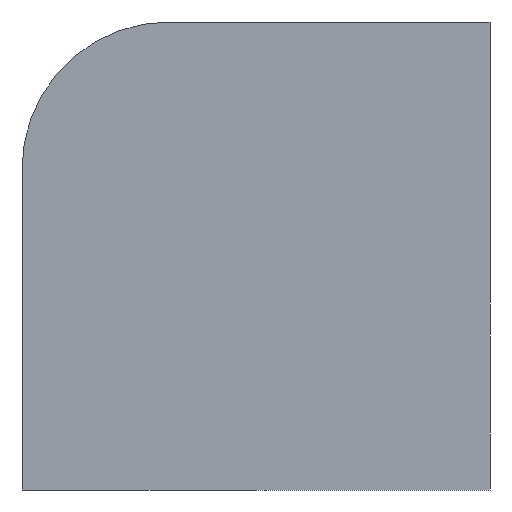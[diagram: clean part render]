
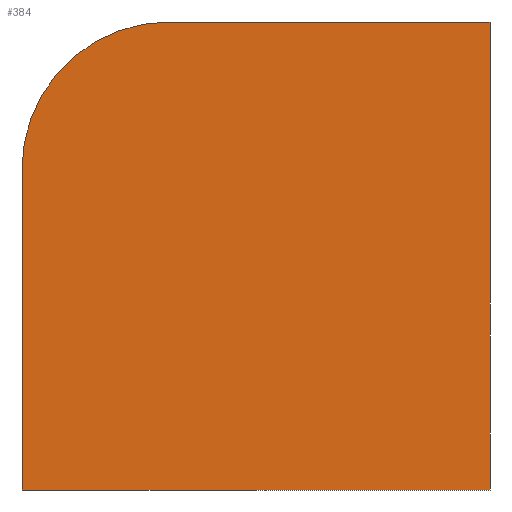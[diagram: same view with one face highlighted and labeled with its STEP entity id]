
A CAD part, left-side view. The second image highlights one B-rep face of the part: STEP entity #384.
In plain terms, the highlighted planar face has unit normal (-1, 0, 0).
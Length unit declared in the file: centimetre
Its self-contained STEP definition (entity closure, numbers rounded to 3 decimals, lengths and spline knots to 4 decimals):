
#8 = ORIENTED_EDGE ( 'NONE', *, *, #543, .T. ) ;
#17 = EDGE_CURVE ( 'NONE', #44, #299, #337, .T. ) ;
#31 = LINE ( 'NONE', #331, #528 ) ;
#36 = PLANE ( 'NONE',  #256 ) ;
#44 = VERTEX_POINT ( 'NONE', #55 ) ;
#48 = VERTEX_POINT ( 'NONE', #468 ) ;
#54 = CARTESIAN_POINT ( 'NONE',  ( 0., 1000., 0. ) ) ;
#55 = CARTESIAN_POINT ( 'NONE',  ( 0., 1000., 686.0253 ) ) ;
#57 = CARTESIAN_POINT ( 'NONE',  ( 0., 686.0253, 686.0253 ) ) ;
#83 = VECTOR ( 'NONE', #352, 100. ) ;
#85 = CARTESIAN_POINT ( 'NONE',  ( 0., 1000., 1000. ) ) ;
#96 = EDGE_LOOP ( 'NONE', ( #98, #183, #619, #8, #282 ) ) ;
#98 = ORIENTED_EDGE ( 'NONE', *, *, #658, .F. ) ;
#125 = CARTESIAN_POINT ( 'NONE',  ( 0., 686.0253, 1000. ) ) ;
#132 = FACE_OUTER_BOUND ( 'NONE', #96, .T. ) ;
#144 = CARTESIAN_POINT ( 'NONE',  ( 0., 1000., 0. ) ) ;
#176 = CARTESIAN_POINT ( 'NONE',  ( 0., 1000., 1000. ) ) ;
#183 = ORIENTED_EDGE ( 'NONE', *, *, #258, .T. ) ;
#189 = DIRECTION ( 'NONE',  ( 0., 0., -1. ) ) ;
#227 = CIRCLE ( 'NONE', #351, 313.9747 ) ;
#236 = DIRECTION ( 'NONE',  ( 1., 0., 0. ) ) ;
#256 = AXIS2_PLACEMENT_3D ( 'NONE', #176, #236, #189 ) ;
#258 = EDGE_CURVE ( 'NONE', #365, #44, #227, .T. ) ;
#282 = ORIENTED_EDGE ( 'NONE', *, *, #610, .F. ) ;
#299 = VERTEX_POINT ( 'NONE', #54 ) ;
#302 = VECTOR ( 'NONE', #484, 100. ) ;
#331 = CARTESIAN_POINT ( 'NONE',  ( 0., 0., 1000. ) ) ;
#337 = LINE ( 'NONE', #644, #623 ) ;
#339 = DIRECTION ( 'NONE',  ( 0., 0., -1. ) ) ;
#351 = AXIS2_PLACEMENT_3D ( 'NONE', #57, #624, #366 ) ;
#352 = DIRECTION ( 'NONE',  ( 0., -1., 0. ) ) ;
#365 = VERTEX_POINT ( 'NONE', #125 ) ;
#366 = DIRECTION ( 'NONE',  ( 0., 0., -1. ) ) ;
#384 = ADVANCED_FACE ( 'NONE', ( #132 ), #36, .F. ) ;
#397 = CARTESIAN_POINT ( 'NONE',  ( 0., 0., 1000. ) ) ;
#431 = LINE ( 'NONE', #85, #302 ) ;
#468 = CARTESIAN_POINT ( 'NONE',  ( 0., 0., 0. ) ) ;
#484 = DIRECTION ( 'NONE',  ( 0., -1., 0. ) ) ;
#488 = VERTEX_POINT ( 'NONE', #397 ) ;
#528 = VECTOR ( 'NONE', #339, 100. ) ;
#543 = EDGE_CURVE ( 'NONE', #299, #48, #606, .T. ) ;
#606 = LINE ( 'NONE', #144, #83 ) ;
#610 = EDGE_CURVE ( 'NONE', #488, #48, #31, .T. ) ;
#619 = ORIENTED_EDGE ( 'NONE', *, *, #17, .T. ) ;
#623 = VECTOR ( 'NONE', #648, 100. ) ;
#624 = DIRECTION ( 'NONE',  ( -1., 0., 0. ) ) ;
#644 = CARTESIAN_POINT ( 'NONE',  ( 0., 1000., 1000. ) ) ;
#648 = DIRECTION ( 'NONE',  ( 0., 0., -1. ) ) ;
#658 = EDGE_CURVE ( 'NONE', #365, #488, #431, .T. ) ;
